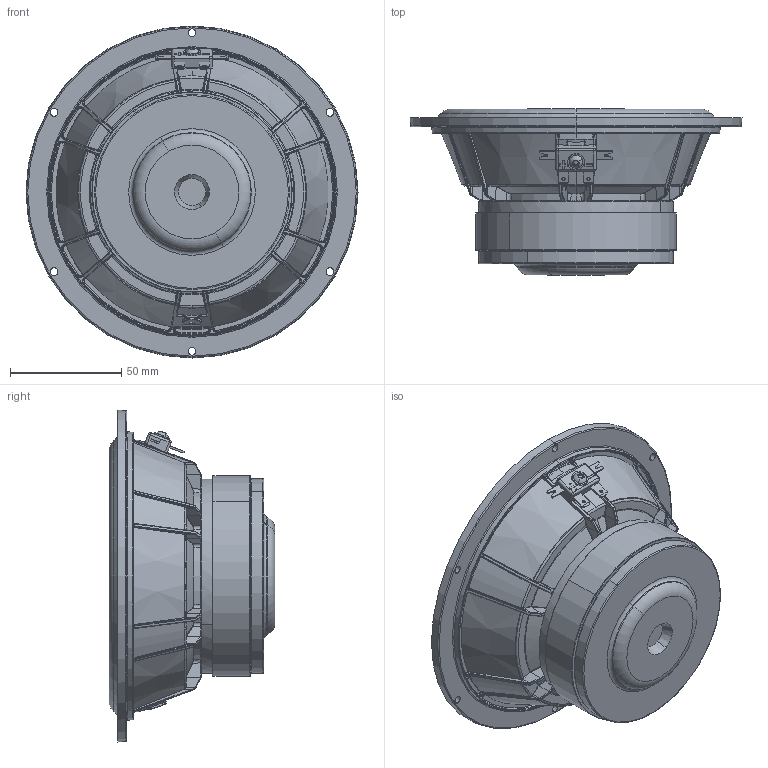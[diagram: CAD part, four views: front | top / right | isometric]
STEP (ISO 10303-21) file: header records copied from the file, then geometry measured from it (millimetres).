
FILE_DESCRIPTION (( 'STEP AP214' ), '1' );
FILE_NAME ('15W-8534T00.STEP', '2020-10-20T09:57:51', ( '' ), ( '' ), 'SwSTEP 2.0', 'SolidWorks 2019', '' );
FILE_SCHEMA (( 'AUTOMOTIVE_DESIGN' ));
Length unit declared in the file: millimetre
Products named in the file (1): 15W-8534T00
Bounding box: 149 x 74.38 x 149 mm (x, y, z)
Volume: 481284.8 mm3; surface area: 64015.4 mm2
Topology: 3 solids, 10 shells, 1364 faces, 3286 edges, 1945 vertices
Faces by surface type: bspline 582, plane 279, cylinder 262, torus 139, cone 86, sphere 16
Entity records: 67765 total; most frequent: CARTESIAN_POINT 25467, ORIENTED_EDGE 6552, DIRECTION 4717, EDGE_CURVE 3276, AXIS2_PLACEMENT_3D 1962, VERTEX_POINT 1945, EDGE_LOOP 1397, FACE_OUTER_BOUND 1364
